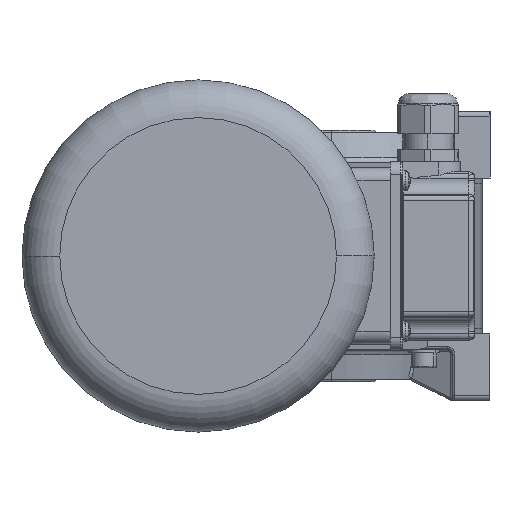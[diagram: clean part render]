
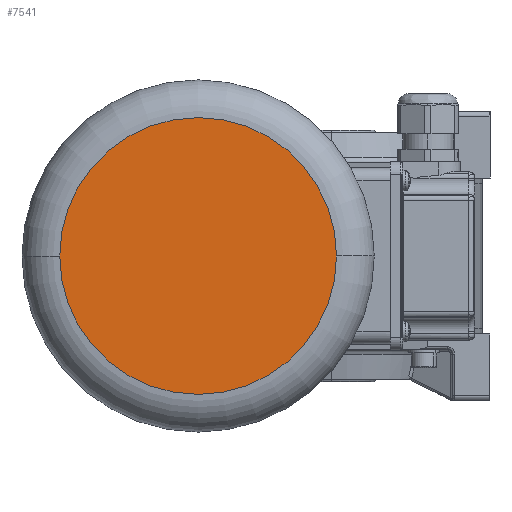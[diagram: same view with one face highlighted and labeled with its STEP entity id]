
A CAD part, left-side view. The second image highlights one B-rep face of the part: STEP entity #7541.
In plain terms, the highlighted planar face has unit normal (-1, 0, 0).
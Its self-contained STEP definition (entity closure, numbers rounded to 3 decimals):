
#1392 = CARTESIAN_POINT ( 'NONE',  ( 0., 0., -55. ) ) ;
#2725 = EDGE_CURVE ( 'NONE', #8518, #24225, #4467, .T. ) ;
#2930 = CARTESIAN_POINT ( 'NONE',  ( 0., 0., 0. ) ) ;
#2985 = DIRECTION ( 'NONE',  ( 0., 0., 1. ) ) ;
#4467 = CIRCLE ( 'NONE', #6602, 55. ) ;
#5166 = CIRCLE ( 'NONE', #6233, 55. ) ;
#5282 = DIRECTION ( 'NONE',  ( 0., 0., 1. ) ) ;
#6233 = AXIS2_PLACEMENT_3D ( 'NONE', #2930, #28453, #5282 ) ;
#6602 = AXIS2_PLACEMENT_3D ( 'NONE', #31498, #20659, #2985 ) ;
#7541 = ADVANCED_FACE ( 'NONE', ( #23562 ), #10545, .F. ) ;
#8518 = VERTEX_POINT ( 'NONE', #1392 ) ;
#10545 = PLANE ( 'NONE',  #27523 ) ;
#10699 = DIRECTION ( 'NONE',  ( 0., 0., -1. ) ) ;
#19248 = EDGE_CURVE ( 'NONE', #24225, #8518, #5166, .T. ) ;
#20659 = DIRECTION ( 'NONE',  ( -1., 0., 0. ) ) ;
#23562 = FACE_OUTER_BOUND ( 'NONE', #30217, .T. ) ;
#23729 = CARTESIAN_POINT ( 'NONE',  ( 0., 0., 0. ) ) ;
#23815 = ORIENTED_EDGE ( 'NONE', *, *, #19248, .T. ) ;
#24225 = VERTEX_POINT ( 'NONE', #24466 ) ;
#24466 = CARTESIAN_POINT ( 'NONE',  ( 0., 0., 55. ) ) ;
#27523 = AXIS2_PLACEMENT_3D ( 'NONE', #23729, #28884, #10699 ) ;
#28453 = DIRECTION ( 'NONE',  ( -1., 0., 0. ) ) ;
#28801 = ORIENTED_EDGE ( 'NONE', *, *, #2725, .T. ) ;
#28884 = DIRECTION ( 'NONE',  ( 1., 0., 0. ) ) ;
#30217 = EDGE_LOOP ( 'NONE', ( #23815, #28801 ) ) ;
#31498 = CARTESIAN_POINT ( 'NONE',  ( 0., 0., 0. ) ) ;
